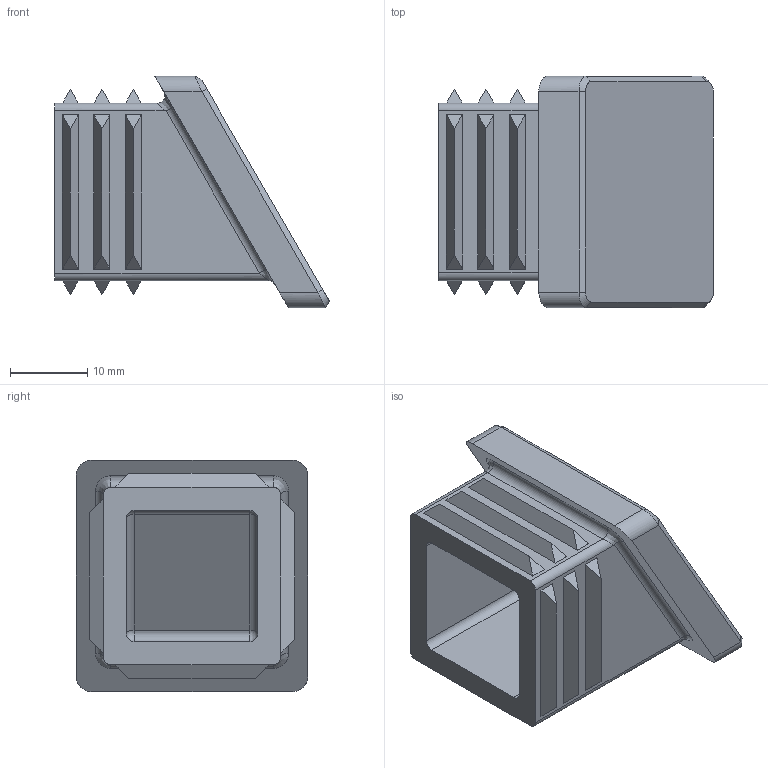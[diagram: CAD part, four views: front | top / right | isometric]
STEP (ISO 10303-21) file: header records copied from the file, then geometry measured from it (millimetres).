
FILE_DESCRIPTION (( 'STEP AP214' ), '1' );
FILE_NAME ('MONO_038-p203_02 (2mm).STEP', '2026-03-24T00:25:46', ( '' ), ( '' ), 'SwSTEP 2.0', 'SolidWorks 2024', '' );
FILE_SCHEMA (( 'AUTOMOTIVE_DESIGN' ));
Length unit declared in the file: millimetre
Products named in the file (1): MONO_038-p203_02 (2mm)
Bounding box: 35.57 x 30 x 30 mm (x, y, z)
Volume: 10806.7 mm3; surface area: 6408.1 mm2
Topology: 1 solids, 1 shells, 100 faces, 228 edges, 140 vertices
Faces by surface type: plane 68, cylinder 20, bspline 8, sphere 4
Entity records: 2968 total; most frequent: CARTESIAN_POINT 794, ORIENTED_EDGE 448, DIRECTION 410, EDGE_CURVE 224, LINE 168, VECTOR 168, VERTEX_POINT 140, AXIS2_PLACEMENT_3D 121
